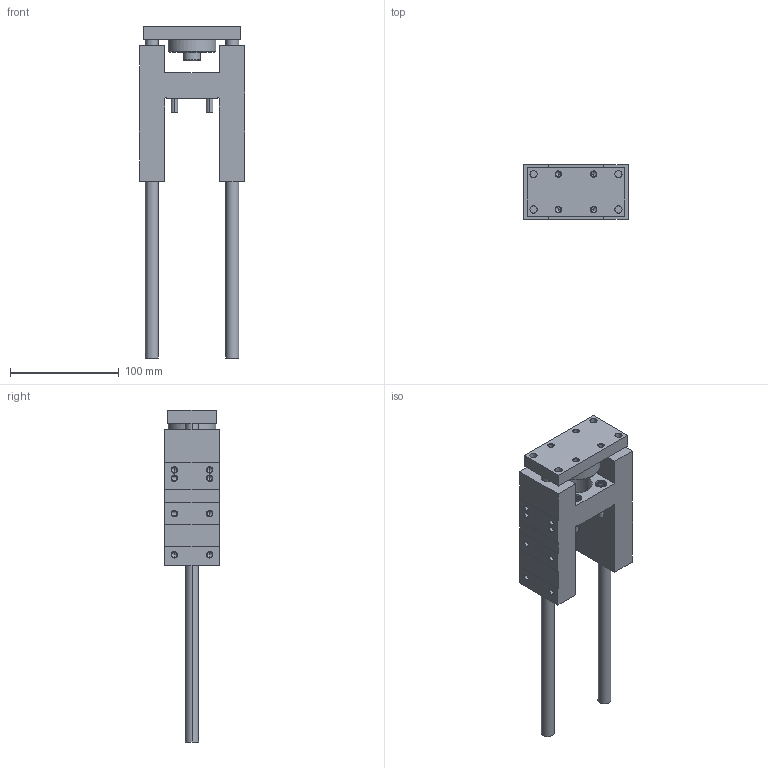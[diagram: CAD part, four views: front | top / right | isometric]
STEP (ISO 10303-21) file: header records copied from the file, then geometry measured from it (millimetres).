
FILE_DESCRIPTION (( 'STEP AP203' ), '1' );
FILE_NAME ('GB32-150.STEP', '2020-04-24T11:10:29', ( '' ), ( '' ), 'SwSTEP 2.0', 'SolidWorks 2019', '' );
FILE_SCHEMA (( 'CONFIG_CONTROL_DESIGN' ));
Length unit declared in the file: millimetre
Products named in the file (1): GB32-150
Bounding box: 97 x 50 x 305 mm (x, y, z)
Volume: 427865.5 mm3; surface area: 103666.1 mm2
Topology: 6 solids, 6 shells, 377 faces, 862 edges, 494 vertices
Faces by surface type: cone 154, plane 117, cylinder 106
Entity records: 11155 total; most frequent: CARTESIAN_POINT 2540, DIRECTION 1916, ORIENTED_EDGE 1660, EDGE_CURVE 830, AXIS2_PLACEMENT_3D 756, VERTEX_POINT 494, EDGE_LOOP 444, VECTOR 404
